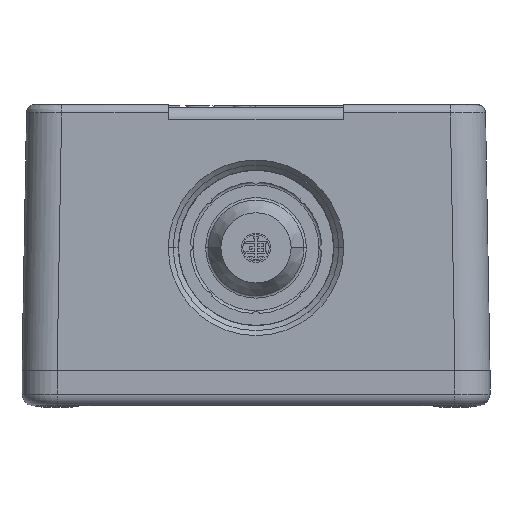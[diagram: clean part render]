
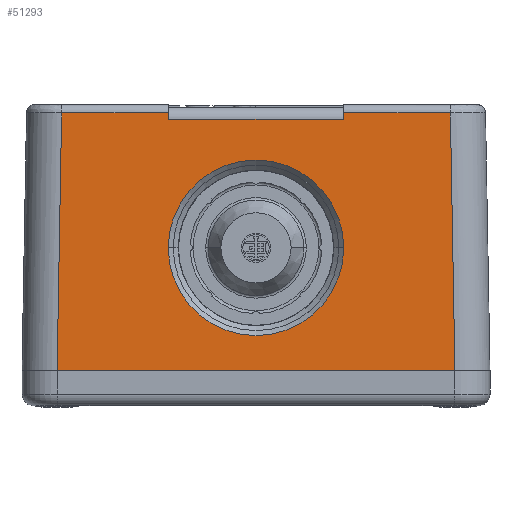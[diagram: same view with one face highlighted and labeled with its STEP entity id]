
A CAD part, front view. The second image highlights one B-rep face of the part: STEP entity #51293.
In plain terms, the highlighted planar face has unit normal (0, -1, 0) as drawn and (0, 0, -1) by its records, which use the part's own axes.
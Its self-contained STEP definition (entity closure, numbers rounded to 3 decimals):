
#25400=CARTESIAN_POINT('',(-33.999,45.5,-87.5));
#25408=DIRECTION('',(-1.,0.,0.));
#25409=VECTOR('',#25408,67.998);
#25410=CARTESIAN_POINT('',(33.999,45.5,-87.5));
#25411=LINE('',#25410,#25409);
#25418=CARTESIAN_POINT('',(33.999,45.5,-87.5));
#26392=CARTESIAN_POINT('',(0.,24.5,-87.5));
#26393=DIRECTION('',(0.,0.,1.));
#26394=DIRECTION('',(1.,0.,0.));
#26395=AXIS2_PLACEMENT_3D('',#26392,#26393,#26394);
#26410=DIRECTION('',(1.,0.,0.));
#26411=VECTOR('',#26410,18.256);
#26412=CARTESIAN_POINT('',(-33.23,1.45,-87.5));
#26413=LINE('',#26412,#26411);
#26414=DIRECTION('',(-1.,0.,0.));
#26415=VECTOR('',#26414,29.913);
#26416=CARTESIAN_POINT('',(14.956,2.5,-87.5));
#26417=LINE('',#26416,#26415);
#26418=DIRECTION('',(1.,0.,0.));
#26419=VECTOR('',#26418,18.256);
#26420=CARTESIAN_POINT('',(14.975,1.45,-87.5));
#26421=LINE('',#26420,#26419);
#26422=DIRECTION('',(-0.017,-1.,0.));
#26423=VECTOR('',#26422,44.057);
#26424=CARTESIAN_POINT('',(33.999,45.5,-87.5));
#26425=LINE('',#26424,#26423);
#26426=DIRECTION('',(0.017,-1.,0.));
#26427=VECTOR('',#26426,44.057);
#26428=CARTESIAN_POINT('',(-33.999,45.5,-87.5));
#26429=LINE('',#26428,#26427);
#26430=CARTESIAN_POINT('',(0.,24.5,-87.5));
#26431=DIRECTION('',(0.,0.,1.));
#26432=DIRECTION('',(-1.,0.,0.));
#26433=AXIS2_PLACEMENT_3D('',#26430,#26431,#26432);
#30632=CARTESIAN_POINT('',(33.23,1.45,-87.5));
#30682=DIRECTION('',(-0.017,1.,0.));
#30683=VECTOR('',#30682,1.05);
#30684=CARTESIAN_POINT('',(14.975,1.45,-87.5));
#30685=LINE('',#30684,#30683);
#30794=DIRECTION('',(-0.017,-1.,0.));
#30795=VECTOR('',#30794,1.05);
#30796=CARTESIAN_POINT('',(-14.956,2.5,-87.5));
#30797=LINE('',#30796,#30795);
#44253=VERTEX_POINT('',#25418);
#44254=VERTEX_POINT('',#25400);
#44266=CARTESIAN_POINT('',(14.956,2.5,-87.5));
#44267=CARTESIAN_POINT('',(-14.956,2.5,-87.5));
#44268=VERTEX_POINT('',#44266);
#44269=VERTEX_POINT('',#44267);
#44289=VERTEX_POINT('',#30632);
#44292=CARTESIAN_POINT('',(14.975,1.45,-87.5));
#44293=VERTEX_POINT('',#44292);
#44294=CARTESIAN_POINT('',(-33.23,1.45,-87.5));
#44295=CARTESIAN_POINT('',(-14.975,1.45,-87.5));
#44296=VERTEX_POINT('',#44294);
#44297=VERTEX_POINT('',#44295);
#49664=CARTESIAN_POINT('',(-15.,24.5,-87.5));
#49665=CARTESIAN_POINT('',(15.,24.5,-87.5));
#49666=VERTEX_POINT('',#49664);
#49667=VERTEX_POINT('',#49665);
#51266=CARTESIAN_POINT('',(40.,0.,-87.5));
#51267=DIRECTION('',(0.,0.,-1.));
#51268=DIRECTION('',(-1.,0.,0.));
#51269=AXIS2_PLACEMENT_3D('',#51266,#51267,#51268);
#51270=PLANE('',#51269);
#51272=ORIENTED_EDGE('',*,*,#51271,.T.);
#51274=ORIENTED_EDGE('',*,*,#51273,.F.);
#51276=ORIENTED_EDGE('',*,*,#51275,.F.);
#51278=ORIENTED_EDGE('',*,*,#51277,.F.);
#51280=ORIENTED_EDGE('',*,*,#51279,.T.);
#51282=ORIENTED_EDGE('',*,*,#51281,.F.);
#51283=ORIENTED_EDGE('',*,*,#50124,.T.);
#51285=ORIENTED_EDGE('',*,*,#51284,.T.);
#51286=EDGE_LOOP('',(#51272,#51274,#51276,#51278,#51280,#51282,#51283,#51285));
#51287=FACE_OUTER_BOUND('',#51286,.F.);
#51288=ORIENTED_EDGE('',*,*,#51256,.F.);
#51290=ORIENTED_EDGE('',*,*,#51289,.F.);
#51291=EDGE_LOOP('',(#51288,#51290));
#51292=FACE_BOUND('',#51291,.F.);
#51293=ADVANCED_FACE('',(#51287,#51292),#51270,.T.);
#26396=CIRCLE('',#26395,15.);
#26434=CIRCLE('',#26433,15.);
#50124=EDGE_CURVE('',#44253,#44254,#25411,.T.);
#51256=EDGE_CURVE('',#49667,#49666,#26396,.T.);
#51271=EDGE_CURVE('',#44296,#44297,#26413,.T.);
#51273=EDGE_CURVE('',#44269,#44297,#30797,.T.);
#51275=EDGE_CURVE('',#44268,#44269,#26417,.T.);
#51277=EDGE_CURVE('',#44293,#44268,#30685,.T.);
#51279=EDGE_CURVE('',#44293,#44289,#26421,.T.);
#51281=EDGE_CURVE('',#44253,#44289,#26425,.T.);
#51284=EDGE_CURVE('',#44254,#44296,#26429,.T.);
#51289=EDGE_CURVE('',#49666,#49667,#26434,.T.);
